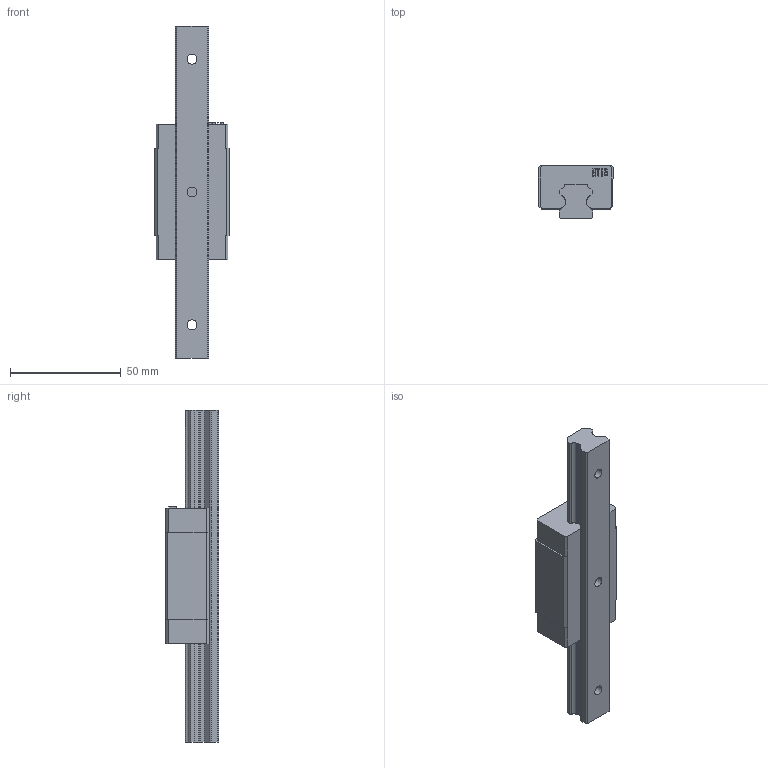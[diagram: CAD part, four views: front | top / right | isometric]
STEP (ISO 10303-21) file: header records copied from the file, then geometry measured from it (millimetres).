
FILE_DESCRIPTION (( 'STEP AP214' ), '1' );
FILE_NAME ('7.1071 Lineaarikelkka HTL15CA.STEP', '2026-03-12T13:50:48', ( '' ), ( '' ), 'SwSTEP 2.0', 'SolidWorks 2025', '' );
FILE_SCHEMA (( 'AUTOMOTIVE_DESIGN' ));
Length unit declared in the file: millimetre
Products named in the file (4): HTH_15_ASM_3_ASM; 7.1071 Lineaarikelkka HTL15CA; HGH15_2; HGR15_1
Assembly tree (3 placements, depth 3):
  7.1071 Lineaarikelkka HTL15CA
    HTH_15_ASM_3_ASM
      HGH15_2
      HGR15_1
Bounding box: 34 x 24 x 150 mm (x, y, z)
Volume: 59199 mm3; surface area: 19507.4 mm2
Topology: 2 solids, 2 shells, 772 faces, 2177 edges, 1450 vertices
Faces by surface type: plane 670, bspline 56, cylinder 46
Entity records: 35601 total; most frequent: CARTESIAN_POINT 7258, ORIENTED_EDGE 4354, DIRECTION 3603, EDGE_CURVE 2177, VECTOR 1973, LINE 1973, VERTEX_POINT 1450, EDGE_LOOP 819
